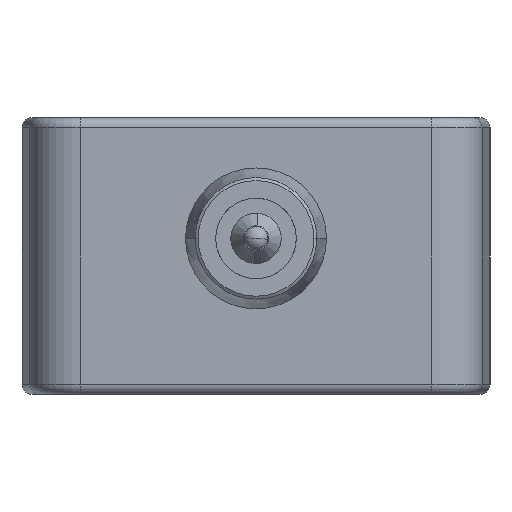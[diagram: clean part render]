
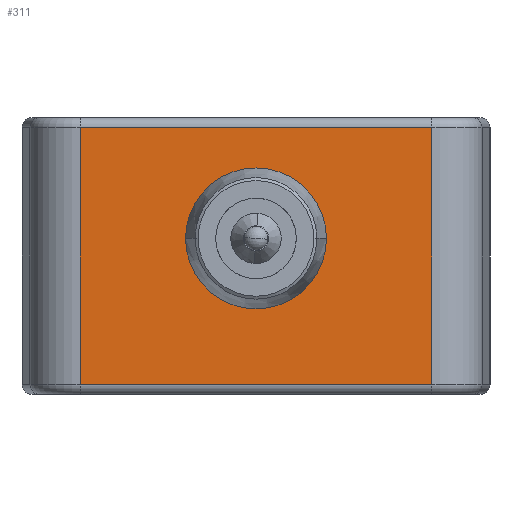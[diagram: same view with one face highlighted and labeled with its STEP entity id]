
A CAD part, front view. The second image highlights one B-rep face of the part: STEP entity #311.
In plain terms, the highlighted planar face has unit normal (0, -1, 0).
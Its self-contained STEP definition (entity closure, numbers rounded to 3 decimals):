
#311=ADVANCED_FACE('NONE',(#689,#690),#434,.F.);
#434=PLANE('',#2182);
#473=LINE('',#3075,#582);
#491=LINE('',#3134,#600);
#492=LINE('',#3136,#601);
#493=LINE('',#3138,#602);
#582=VECTOR('',#2446,1.);
#600=VECTOR('',#2496,1.);
#601=VECTOR('',#2497,1.);
#602=VECTOR('',#2498,1.);
#689=FACE_BOUND('',#750,.T.);
#690=FACE_BOUND('',#751,.T.);
#750=EDGE_LOOP('',(#947,#948,#949,#950));
#751=EDGE_LOOP('',(#951));
#947=ORIENTED_EDGE('',*,*,#1759,.T.);
#948=ORIENTED_EDGE('',*,*,#1760,.T.);
#949=ORIENTED_EDGE('',*,*,#1761,.T.);
#950=ORIENTED_EDGE('',*,*,#1730,.T.);
#951=ORIENTED_EDGE('',*,*,#1762,.F.);
#1522=VERTEX_POINT('',#3076);
#1523=VERTEX_POINT('',#3077);
#1547=VERTEX_POINT('',#3135);
#1548=VERTEX_POINT('',#3137);
#1549=VERTEX_POINT('',#3140);
#1730=EDGE_CURVE('',#1522,#1523,#473,.T.);
#1759=EDGE_CURVE('',#1523,#1547,#491,.T.);
#1760=EDGE_CURVE('',#1547,#1548,#492,.T.);
#1761=EDGE_CURVE('',#1548,#1522,#493,.T.);
#1762=EDGE_CURVE('',#1549,#1549,#2039,.T.);
#2039=CIRCLE('',#2181,7.);
#2181=AXIS2_PLACEMENT_3D('',#3139,#2499,#2500);
#2182=AXIS2_PLACEMENT_3D('',#3141,#2501,#2502);
#2446=DIRECTION('',(-1.,0.,0.));
#2496=DIRECTION('',(0.,0.,-1.));
#2497=DIRECTION('',(1.,0.,0.));
#2498=DIRECTION('',(0.,0.,1.));
#2499=DIRECTION('',(0.,-1.,0.));
#2500=DIRECTION('',(0.,0.,1.));
#2501=DIRECTION('',(0.,1.,0.));
#2502=DIRECTION('',(0.,0.,1.));
#3075=CARTESIAN_POINT('',(-18.939,-10.753,11.));
#3076=CARTESIAN_POINT('',(14.82,-10.753,11.));
#3077=CARTESIAN_POINT('',(-20.122,-10.753,11.));
#3134=CARTESIAN_POINT('',(-20.122,-10.753,9.));
#3135=CARTESIAN_POINT('',(-20.122,-10.753,-14.5));
#3136=CARTESIAN_POINT('',(13.638,-10.753,-14.5));
#3137=CARTESIAN_POINT('',(14.82,-10.753,-14.5));
#3138=CARTESIAN_POINT('',(14.82,-10.753,11.));
#3139=CARTESIAN_POINT('',(-2.651,-10.753,0.));
#3140=CARTESIAN_POINT('',(-2.651,-10.753,7.));
#3141=CARTESIAN_POINT('',(-24.651,-10.753,12.));
